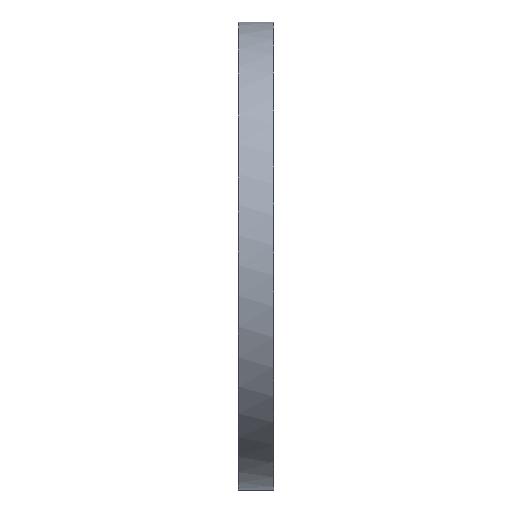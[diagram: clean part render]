
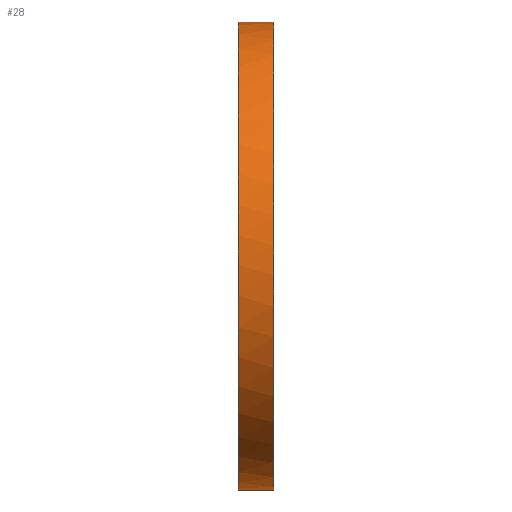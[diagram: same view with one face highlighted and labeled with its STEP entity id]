
A CAD part, top view. The second image highlights one B-rep face of the part: STEP entity #28.
In plain terms, the highlighted free-form (B-spline) face has degree [2, 1] with [9, 2] control points.
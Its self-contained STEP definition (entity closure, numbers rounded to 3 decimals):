
#28=ADVANCED_FACE('',(#36),#268,.T.);
#36=FACE_OUTER_BOUND('',#44,.T.);
#44=EDGE_LOOP('',(#56,#57,#58,#59));
#56=ORIENTED_EDGE('',*,*,#206,.T.);
#57=ORIENTED_EDGE('',*,*,#207,.T.);
#58=ORIENTED_EDGE('',*,*,#208,.T.);
#59=ORIENTED_EDGE('',*,*,#209,.T.);
#92=PCURVE('',#268,#128);
#93=PCURVE('',#268,#129);
#94=PCURVE('',#268,#130);
#95=PCURVE('',#268,#131);
#105=PCURVE('',#266,#141);
#110=PCURVE('',#267,#146);
#117=PCURVE('',#271,#153);
#119=PCURVE('',#271,#155);
#128=DEFINITIONAL_REPRESENTATION('',(#164),#607);
#129=DEFINITIONAL_REPRESENTATION('',(#165),#607);
#130=DEFINITIONAL_REPRESENTATION('',(#166),#607);
#131=DEFINITIONAL_REPRESENTATION('',(#167),#607);
#141=DEFINITIONAL_REPRESENTATION('',(#238),#607);
#146=DEFINITIONAL_REPRESENTATION('',(#245),#607);
#153=DEFINITIONAL_REPRESENTATION('',(#177),#607);
#155=DEFINITIONAL_REPRESENTATION('',(#179),#607);
#164=B_SPLINE_CURVE_WITH_KNOTS('',1,(#428,#429),.UNSPECIFIED.,.F.,.F.,(2,
2),(0.,3.),.UNSPECIFIED.);
#165=B_SPLINE_CURVE_WITH_KNOTS('',1,(#435,#436),.UNSPECIFIED.,.F.,.F.,(2,
2),(-62.832,0.),.UNSPECIFIED.);
#166=B_SPLINE_CURVE_WITH_KNOTS('',1,(#439,#440),.UNSPECIFIED.,.F.,.F.,(2,
2),(-3.,0.),.UNSPECIFIED.);
#167=B_SPLINE_CURVE_WITH_KNOTS('',1,(#446,#447),.UNSPECIFIED.,.F.,.F.,(2,
2),(0.,62.832),.UNSPECIFIED.);
#177=B_SPLINE_CURVE_WITH_KNOTS('',1,(#584,#585),.UNSPECIFIED.,.F.,.F.,(2,
2),(-3.,0.),.UNSPECIFIED.);
#179=B_SPLINE_CURVE_WITH_KNOTS('',1,(#588,#589),.UNSPECIFIED.,.F.,.F.,(2,
2),(0.,3.),.UNSPECIFIED.);
#188=SURFACE_CURVE('',#224,(#92,#119),.PCURVE_S1.);
#189=SURFACE_CURVE('',#225,(#93,#110),.PCURVE_S1.);
#190=SURFACE_CURVE('',#226,(#94,#117),.PCURVE_S1.);
#191=SURFACE_CURVE('',#227,(#95,#105),.PCURVE_S1.);
#206=EDGE_CURVE('',#260,#261,#188,.T.);
#207=EDGE_CURVE('',#261,#255,#189,.T.);
#208=EDGE_CURVE('',#255,#254,#190,.T.);
#209=EDGE_CURVE('',#254,#260,#191,.T.);
#224=(
BOUNDED_CURVE()
B_SPLINE_CURVE(1,(#426,#427),.UNSPECIFIED.,.F.,.F.)
B_SPLINE_CURVE_WITH_KNOTS((2,2),(0.,3.),.UNSPECIFIED.)
CURVE()
GEOMETRIC_REPRESENTATION_ITEM()
RATIONAL_B_SPLINE_CURVE((1.,1.))
REPRESENTATION_ITEM('')
);
#225=(
BOUNDED_CURVE()
B_SPLINE_CURVE(2,(#430,#431,#432,#433,#434),.UNSPECIFIED.,.F.,.F.)
B_SPLINE_CURVE_WITH_KNOTS((3,2,3),(-62.832,-31.416,0.),
 .UNSPECIFIED.)
CURVE()
GEOMETRIC_REPRESENTATION_ITEM()
RATIONAL_B_SPLINE_CURVE((1.,0.707,1.,0.707,1.))
REPRESENTATION_ITEM('')
);
#226=(
BOUNDED_CURVE()
B_SPLINE_CURVE(1,(#437,#438),.UNSPECIFIED.,.F.,.F.)
B_SPLINE_CURVE_WITH_KNOTS((2,2),(-3.,0.),.UNSPECIFIED.)
CURVE()
GEOMETRIC_REPRESENTATION_ITEM()
RATIONAL_B_SPLINE_CURVE((1.,1.))
REPRESENTATION_ITEM('')
);
#227=(
BOUNDED_CURVE()
B_SPLINE_CURVE(2,(#441,#442,#443,#444,#445),.UNSPECIFIED.,.F.,.F.)
B_SPLINE_CURVE_WITH_KNOTS((3,2,3),(0.,31.416,62.832),
 .UNSPECIFIED.)
CURVE()
GEOMETRIC_REPRESENTATION_ITEM()
RATIONAL_B_SPLINE_CURVE((1.,0.707,1.,0.707,1.))
REPRESENTATION_ITEM('')
);
#238=(
BOUNDED_CURVE()
B_SPLINE_CURVE(2,(#502,#503,#504,#505,#506),.UNSPECIFIED.,.F.,.F.)
B_SPLINE_CURVE_WITH_KNOTS((3,2,3),(0.,31.416,62.832),
 .UNSPECIFIED.)
CURVE()
GEOMETRIC_REPRESENTATION_ITEM()
RATIONAL_B_SPLINE_CURVE((1.,0.707,1.,0.707,1.))
REPRESENTATION_ITEM('')
);
#245=(
BOUNDED_CURVE()
B_SPLINE_CURVE(2,(#537,#538,#539,#540,#541),.UNSPECIFIED.,.F.,.F.)
B_SPLINE_CURVE_WITH_KNOTS((3,2,3),(-62.832,-31.416,0.),
 .UNSPECIFIED.)
CURVE()
GEOMETRIC_REPRESENTATION_ITEM()
RATIONAL_B_SPLINE_CURVE((1.,0.707,1.,0.707,1.))
REPRESENTATION_ITEM('')
);
#254=VERTEX_POINT('',#414);
#255=VERTEX_POINT('',#415);
#260=VERTEX_POINT('',#420);
#261=VERTEX_POINT('',#421);
#266=PLANE('',#294);
#267=PLANE('',#295);
#268=(
BOUNDED_SURFACE()
B_SPLINE_SURFACE(2,1,((#304,#305),(#306,#307),(#308,#309),(#310,#311),(#312,
#313),(#314,#315),(#316,#317),(#318,#319),(#320,#321)),.UNSPECIFIED.,.T.,
 .F.,.F.)
B_SPLINE_SURFACE_WITH_KNOTS((3,2,2,2,3),(2,2),(0.,31.416,62.832,
94.248,125.664),(0.,3.),.UNSPECIFIED.)
GEOMETRIC_REPRESENTATION_ITEM()
RATIONAL_B_SPLINE_SURFACE(((1.,1.),(0.707,0.707),
(1.,1.),(0.707,0.707),(1.,1.),(0.707,
0.707),(1.,1.),(0.707,0.707),(1.,1.)))
REPRESENTATION_ITEM('')
SURFACE()
);
#271=(
BOUNDED_SURFACE()
B_SPLINE_SURFACE(2,1,((#360,#361),(#362,#363),(#364,#365),(#366,#367),(#368,
#369),(#370,#371),(#372,#373),(#374,#375),(#376,#377)),.UNSPECIFIED.,.T.,
 .F.,.F.)
B_SPLINE_SURFACE_WITH_KNOTS((3,2,2,2,3),(2,2),(0.,31.416,62.832,
94.248,125.664),(0.,3.),.UNSPECIFIED.)
GEOMETRIC_REPRESENTATION_ITEM()
RATIONAL_B_SPLINE_SURFACE(((1.,1.),(0.707,0.707),
(1.,1.),(0.707,0.707),(1.,1.),(0.707,
0.707),(1.,1.),(0.707,0.707),(1.,1.)))
REPRESENTATION_ITEM('')
SURFACE()
);
#294=AXIS2_PLACEMENT_3D('',#358,#299,$);
#295=AXIS2_PLACEMENT_3D('',#359,#300,$);
#299=DIRECTION('',(-1.,0.,0.));
#300=DIRECTION('',(1.,0.,0.));
#304=CARTESIAN_POINT('',(823.,445.,-80.));
#305=CARTESIAN_POINT('',(826.,445.,-80.));
#306=CARTESIAN_POINT('',(823.,445.,-60.));
#307=CARTESIAN_POINT('',(826.,445.,-60.));
#308=CARTESIAN_POINT('',(823.,425.,-60.));
#309=CARTESIAN_POINT('',(826.,425.,-60.));
#310=CARTESIAN_POINT('',(823.,405.,-60.));
#311=CARTESIAN_POINT('',(826.,405.,-60.));
#312=CARTESIAN_POINT('',(823.,405.,-80.));
#313=CARTESIAN_POINT('',(826.,405.,-80.));
#314=CARTESIAN_POINT('',(823.,405.,-100.));
#315=CARTESIAN_POINT('',(826.,405.,-100.));
#316=CARTESIAN_POINT('',(823.,425.,-100.));
#317=CARTESIAN_POINT('',(826.,425.,-100.));
#318=CARTESIAN_POINT('',(823.,445.,-100.));
#319=CARTESIAN_POINT('',(826.,445.,-100.));
#320=CARTESIAN_POINT('',(823.,445.,-80.));
#321=CARTESIAN_POINT('',(826.,445.,-80.));
#358=CARTESIAN_POINT('',(823.,400.,-105.));
#359=CARTESIAN_POINT('',(826.,400.,-105.));
#360=CARTESIAN_POINT('',(823.,445.,-80.));
#361=CARTESIAN_POINT('',(826.,445.,-80.));
#362=CARTESIAN_POINT('',(823.,445.,-60.));
#363=CARTESIAN_POINT('',(826.,445.,-60.));
#364=CARTESIAN_POINT('',(823.,425.,-60.));
#365=CARTESIAN_POINT('',(826.,425.,-60.));
#366=CARTESIAN_POINT('',(823.,405.,-60.));
#367=CARTESIAN_POINT('',(826.,405.,-60.));
#368=CARTESIAN_POINT('',(823.,405.,-80.));
#369=CARTESIAN_POINT('',(826.,405.,-80.));
#370=CARTESIAN_POINT('',(823.,405.,-100.));
#371=CARTESIAN_POINT('',(826.,405.,-100.));
#372=CARTESIAN_POINT('',(823.,425.,-100.));
#373=CARTESIAN_POINT('',(826.,425.,-100.));
#374=CARTESIAN_POINT('',(823.,445.,-100.));
#375=CARTESIAN_POINT('',(826.,445.,-100.));
#376=CARTESIAN_POINT('',(823.,445.,-80.));
#377=CARTESIAN_POINT('',(826.,445.,-80.));
#414=CARTESIAN_POINT('',(823.,445.,-80.));
#415=CARTESIAN_POINT('',(826.,445.,-80.));
#420=CARTESIAN_POINT('',(823.,405.,-80.));
#421=CARTESIAN_POINT('',(826.,405.,-80.));
#426=CARTESIAN_POINT('',(823.,405.,-80.));
#427=CARTESIAN_POINT('',(826.,405.,-80.));
#428=CARTESIAN_POINT('',(62.832,0.));
#429=CARTESIAN_POINT('',(62.832,3.));
#430=CARTESIAN_POINT('',(826.,405.,-80.));
#431=CARTESIAN_POINT('',(826.,405.,-60.));
#432=CARTESIAN_POINT('',(826.,425.,-60.));
#433=CARTESIAN_POINT('',(826.,445.,-60.));
#434=CARTESIAN_POINT('',(826.,445.,-80.));
#435=CARTESIAN_POINT('',(62.832,3.));
#436=CARTESIAN_POINT('',(0.,3.));
#437=CARTESIAN_POINT('',(826.,445.,-80.));
#438=CARTESIAN_POINT('',(823.,445.,-80.));
#439=CARTESIAN_POINT('',(0.,3.));
#440=CARTESIAN_POINT('',(0.,0.));
#441=CARTESIAN_POINT('',(823.,445.,-80.));
#442=CARTESIAN_POINT('',(823.,445.,-60.));
#443=CARTESIAN_POINT('',(823.,425.,-60.));
#444=CARTESIAN_POINT('',(823.,405.,-60.));
#445=CARTESIAN_POINT('',(823.,405.,-80.));
#446=CARTESIAN_POINT('',(0.,0.));
#447=CARTESIAN_POINT('',(62.832,0.));
#502=CARTESIAN_POINT('',(0.,0.));
#503=CARTESIAN_POINT('',(20.,0.));
#504=CARTESIAN_POINT('',(20.,-20.));
#505=CARTESIAN_POINT('',(20.,-40.));
#506=CARTESIAN_POINT('',(0.,-40.));
#537=CARTESIAN_POINT('',(-40.,0.));
#538=CARTESIAN_POINT('',(-40.,20.));
#539=CARTESIAN_POINT('',(-20.,20.));
#540=CARTESIAN_POINT('',(0.,20.));
#541=CARTESIAN_POINT('',(0.,0.));
#584=CARTESIAN_POINT('',(125.664,3.));
#585=CARTESIAN_POINT('',(125.664,0.));
#588=CARTESIAN_POINT('',(62.832,0.));
#589=CARTESIAN_POINT('',(62.832,3.));
#607=(
GEOMETRIC_REPRESENTATION_CONTEXT(2)
PARAMETRIC_REPRESENTATION_CONTEXT()
REPRESENTATION_CONTEXT('pspace','')
);
